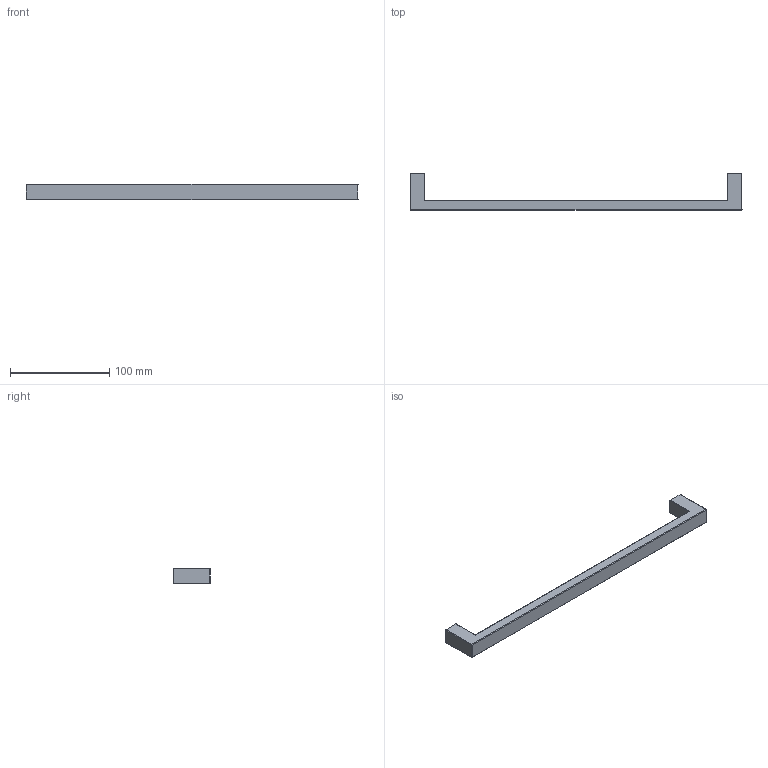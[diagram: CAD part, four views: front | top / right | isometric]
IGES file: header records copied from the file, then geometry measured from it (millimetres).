
Start section: Data from Parasolid IGES Translator 15.0.47, Copyright(c) 2006 Siemens P LM Software. All Rights Reserved.
Global section: file name: 9069808.igs; native system:  By UGS Corp.; preprocessor: XPlus GENERIC/IGES 3.0; author: Noname; organization: Noname; date: 20140122.181652; units: millimetre
Bounding box: 335.01 x 37.01 x 16.01 mm (x, y, z)
Surface area: 20946.1 mm2 (no closed solid volume)
Topology: 0 solids, 0 shells, 34 faces, 164 edges, 162 vertices
Faces by surface type: revolution 18, extrusion 16
